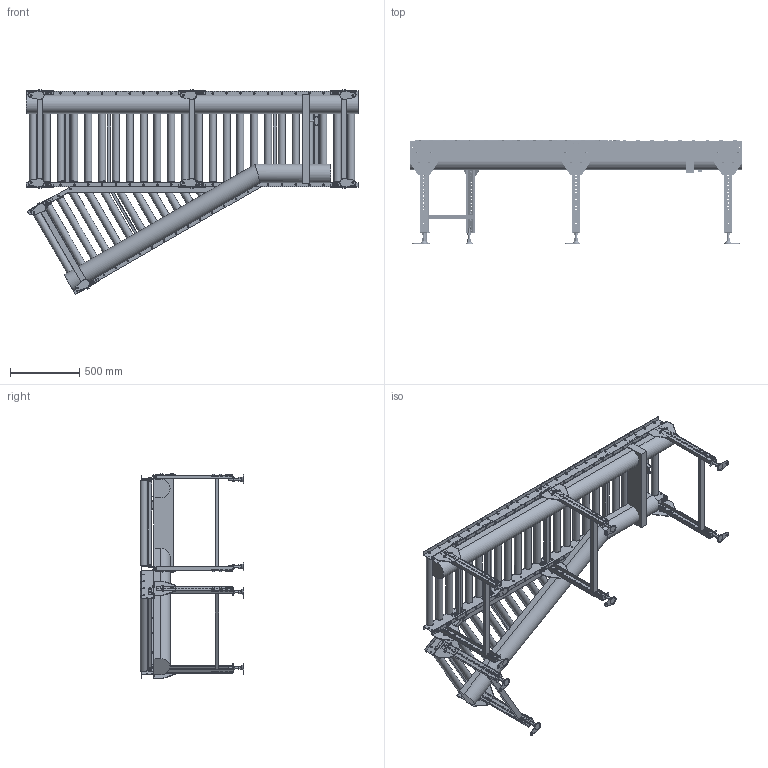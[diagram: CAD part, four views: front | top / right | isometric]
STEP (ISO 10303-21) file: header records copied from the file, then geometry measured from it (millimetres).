
FILE_DESCRIPTION( (''), '2;1');
FILE_NAME ('WEB-MCD-50-630-100-240-L-J30.stp','2025-07-01T15:52:30',(''),(''),'spGate 20.6.2 (****-****-****-****)','','');
FILE_SCHEMA (('AUTOMOTIVE_DESIGN'));
Length unit declared in the file: millimetre
Products named in the file (63): WEB-MCD-50-630-100-240-L-J30; TEMP_X_T-prt0; TEMP_X_T-prt1; TEMP_X_T-prt2; TEMP_X_T-prt3; TEMP_X_T-prt4; TEMP_X_T-prt5; TEMP_X_T-prt6; TEMP_X_T-prt7; TEMP_X_T-prt8; TEMP_X_T-prt9; TEMP_X_T-prt10; TEMP_X_T-prt11; TEMP_X_T-prt12; TEMP_X_T-prt13; TEMP_X_T-prt14; TEMP_X_T-prt15; TEMP_X_T-prt16; TEMP_X_T-prt17; TEMP_X_T-prt18; TEMP_X_T-prt19; TEMP_X_T-prt20; TEMP_X_T-prt21; TEMP_X_T-prt22; TEMP_X_T-prt23; TEMP_X_T-prt24; TEMP_X_T-prt25; TEMP_X_T-prt26; TEMP_X_T-prt27; TEMP_X_T-prt28; TEMP_X_T-prt29; TEMP_X_T-prt30; TEMP_X_T-prt31; TEMP_X_T-prt32; TEMP_X_T-prt33; TEMP_X_T-prt34; TEMP_X_T-prt35; TEMP_X_T-prt36; TEMP_X_T-prt37; TEMP_X_T-prt38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
Assembly tree (62 placements, depth 2):
  WEB-MCD-50-630-100-240-L-J30
    TEMP_X_T-prt0
    TEMP_X_T-prt1
    TEMP_X_T-prt2
    TEMP_X_T-prt3
    TEMP_X_T-prt4
    TEMP_X_T-prt5
    TEMP_X_T-prt6
    TEMP_X_T-prt7
    TEMP_X_T-prt8
    TEMP_X_T-prt9
    TEMP_X_T-prt10
    TEMP_X_T-prt11
    TEMP_X_T-prt12
    TEMP_X_T-prt13
    TEMP_X_T-prt14
    TEMP_X_T-prt15
    TEMP_X_T-prt16
    TEMP_X_T-prt17
    TEMP_X_T-prt18
    TEMP_X_T-prt19
    TEMP_X_T-prt20
    TEMP_X_T-prt21
    TEMP_X_T-prt22
    TEMP_X_T-prt23
    TEMP_X_T-prt24
    TEMP_X_T-prt25
    TEMP_X_T-prt26
    TEMP_X_T-prt27
    TEMP_X_T-prt28
    TEMP_X_T-prt29
    TEMP_X_T-prt30
    TEMP_X_T-prt31
    TEMP_X_T-prt32
    TEMP_X_T-prt33
    TEMP_X_T-prt34
    TEMP_X_T-prt35
    TEMP_X_T-prt36
    TEMP_X_T-prt37
    TEMP_X_T-prt38
    TEMP_X_T-prt39
    TEMP_X_T-prt40
    TEMP_X_T-prt41
    TEMP_X_T-prt42
    TEMP_X_T-prt43
    TEMP_X_T-prt44
    TEMP_X_T-prt45
    TEMP_X_T-prt46
    TEMP_X_T-prt47
    TEMP_X_T-prt48
    TEMP_X_T-prt49
    TEMP_X_T-prt50
    TEMP_X_T-prt51
    TEMP_X_T-prt52
    TEMP_X_T-prt53
    TEMP_X_T-prt54
    TEMP_X_T-prt55
    TEMP_X_T-prt56
    TEMP_X_T-prt57
    TEMP_X_T-prt58
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Bounding box: 2400 x 750 x 1480.95 mm (x, y, z)
Volume: 119755582.1 mm3; surface area: 10326926.7 mm2
Topology: 62 solids, 102 shells, 4264 faces, 11390 edges, 7498 vertices
Faces by surface type: plane 3413, cylinder 843, bspline 8
Full cylindrical faces by diameter (mm): 9 x12, 10 x108, 10.5 x184, 11 x75, 12 x67, 13 x27, 16 x8, 18.4 x48, 18.5 x16, 21 x24, 50.8 x38
Entity records: 227240 total; most frequent: CARTESIAN_POINT 25043, DIRECTION 22953, ORIENTED_EDGE 22780, COLOUR_RGB 15716, PRESENTATION_STYLE_ASSIGNMENT 15716, STYLED_ITEM 15716, EDGE_CURVE 11390, DRAUGHTING_PRE_DEFINED_CURVE_FONT 11390
